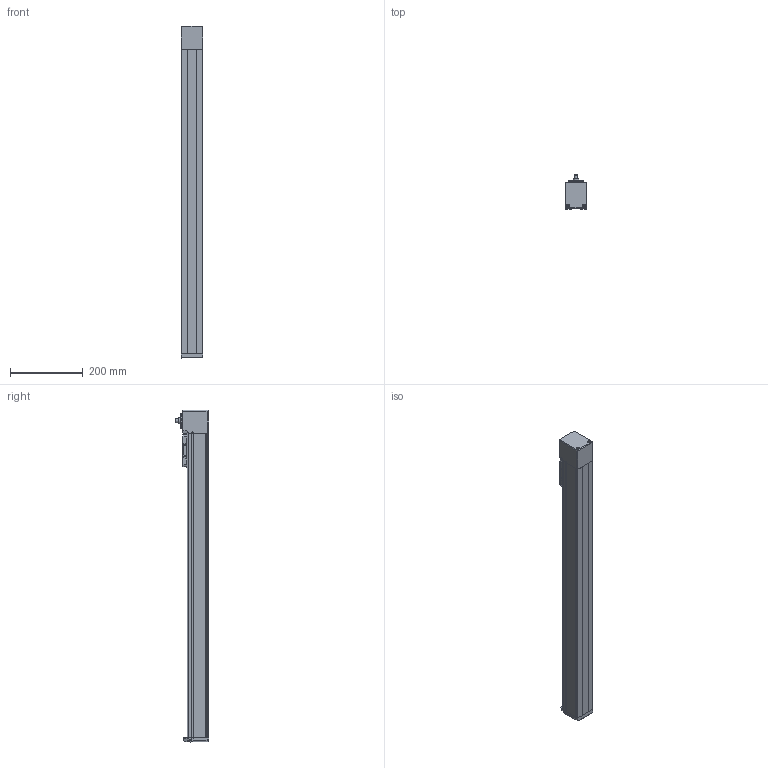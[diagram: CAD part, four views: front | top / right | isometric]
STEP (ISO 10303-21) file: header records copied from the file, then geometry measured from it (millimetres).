
FILE_DESCRIPTION(/* description */ ('STEP AP214'),/* implementation_level */ '2;1');
FILE_NAME(/* name */ 'MGTB 60 700(0)',/* time_stamp */ '2023-04-17T13:39:58+02:00',/* author */ ('License CC BY-ND 4.0'),/* organization */ ('CADENAS'),/* preprocessor_version */ 'ST-DEVELOPER v19.3',/* originating_system */ 'PARTsolutions',/* authorisation */ ' ');
FILE_SCHEMA (('AUTOMOTIVE_DESIGN {1 0 10303 214 3 1 1}'));
Length unit declared in the file: millimetre
Products named in the file (6): MGTB 60 700(0); MGTB 60 700_protection_strip; MGTB 60_carriage; MGTB 60_end_block; MGTB 60 700_profile; MGTB 60_drive_block
Assembly tree (5 placements, depth 2):
  MGTB 60 700(0)
    MGTB 60 700_protection_strip
    MGTB 60_carriage
    MGTB 60_end_block
    MGTB 60 700_profile
    MGTB 60_drive_block
Bounding box: 60 x 92.5 x 915.01 mm (x, y, z)
Volume: 3250792.5 mm3; surface area: 386605.7 mm2
Topology: 5 solids, 5 shells, 696 faces, 1771 edges, 1140 vertices
Faces by surface type: plane 351, cylinder 156, cone 94, bspline 68, torus 25, sphere 2
Full cylindrical faces by diameter (mm): 2 x1, 2.459 x4, 3.242 x6, 4 x12, 4.134 x8, 4.2 x2, 4.8 x2, 5 x2, 5.5 x4, 7 x6, 8 x4, 10 x1, 11 x3, 16 x1, 17 x1, 30 x1, 35 x1, 42 x2
Entity records: 25037 total; most frequent: CARTESIAN_POINT 4184, DIRECTION 3411, ORIENTED_EDGE 3232, EDGE_CURVE 1616, AXIS2_PLACEMENT_3D 1219, VERTEX_POINT 1120, LINE 973, VECTOR 973
